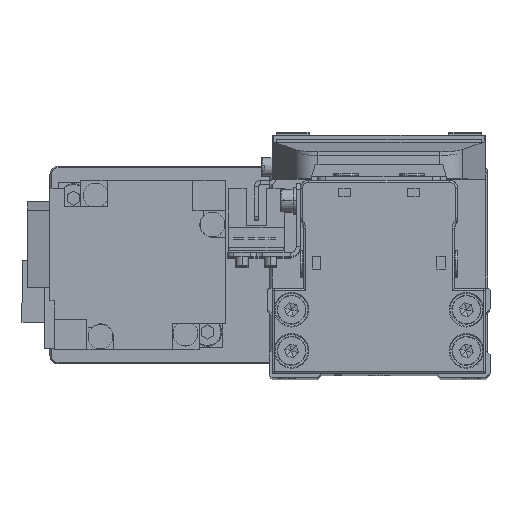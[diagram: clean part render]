
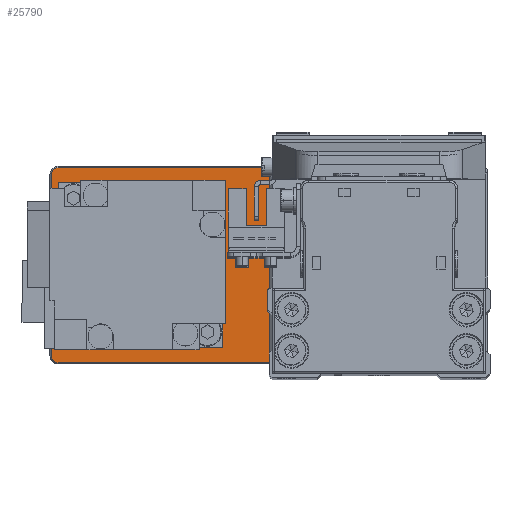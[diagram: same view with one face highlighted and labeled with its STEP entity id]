
A CAD part, top view. The second image highlights one B-rep face of the part: STEP entity #25790.
In plain terms, the highlighted planar face has unit normal (0, 0, 1).
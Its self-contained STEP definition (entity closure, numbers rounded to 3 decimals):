
#2 = CARTESIAN_POINT ( 'NONE',  ( -50., 23.7, 5. ) ) ;
#672 = VECTOR ( 'NONE', #6093, 1000. ) ;
#792 = VERTEX_POINT ( 'NONE', #32833 ) ;
#883 = AXIS2_PLACEMENT_3D ( 'NONE', #17381, #29630, #2081 ) ;
#1026 = AXIS2_PLACEMENT_3D ( 'NONE', #12439, #24698, #36953 ) ;
#2081 = DIRECTION ( 'NONE',  ( 1., 0., 0. ) ) ;
#2682 = DIRECTION ( 'NONE',  ( 0., 0., 1. ) ) ;
#2801 = DIRECTION ( 'NONE',  ( 1., 0., 0. ) ) ;
#3756 = EDGE_CURVE ( 'NONE', #5371, #11821, #10907, .T. ) ;
#3780 = CARTESIAN_POINT ( 'NONE',  ( 51.7, -22., 5. ) ) ;
#4079 = DIRECTION ( 'NONE',  ( 0., 0., 1. ) ) ;
#4479 = DIRECTION ( 'NONE',  ( 1., 0., 0. ) ) ;
#4507 = CIRCLE ( 'NONE', #26968, 12.8 ) ;
#4812 = EDGE_CURVE ( 'NONE', #12138, #792, #38847, .T. ) ;
#5371 = VERTEX_POINT ( 'NONE', #35365 ) ;
#5644 = EDGE_CURVE ( 'NONE', #31655, #14445, #18390, .T. ) ;
#5719 = FACE_OUTER_BOUND ( 'NONE', #32678, .T. ) ;
#5941 = AXIS2_PLACEMENT_3D ( 'NONE', #6757, #19032, #31288 ) ;
#6093 = DIRECTION ( 'NONE',  ( 0., -1., 0. ) ) ;
#6323 = VERTEX_POINT ( 'NONE', #27300 ) ;
#6523 = VERTEX_POINT ( 'NONE', #38117 ) ;
#6757 = CARTESIAN_POINT ( 'NONE',  ( 30., 0., 5. ) ) ;
#7236 = EDGE_CURVE ( 'NONE', #6523, #6323, #21380, .T. ) ;
#8892 = ORIENTED_EDGE ( 'NONE', *, *, #5644, .T. ) ;
#9522 = DIRECTION ( 'NONE',  ( 0., 0., -1. ) ) ;
#9600 = DIRECTION ( 'NONE',  ( 1., 0., 0. ) ) ;
#9760 = CARTESIAN_POINT ( 'NONE',  ( 51.7, 22., 5. ) ) ;
#9847 = ORIENTED_EDGE ( 'NONE', *, *, #4812, .T. ) ;
#10322 = EDGE_CURVE ( 'NONE', #34520, #31655, #37288, .T. ) ;
#10907 = LINE ( 'NONE', #23159, #23497 ) ;
#10922 = VECTOR ( 'NONE', #22034, 1000. ) ;
#11082 = ORIENTED_EDGE ( 'NONE', *, *, #10322, .T. ) ;
#11204 = CIRCLE ( 'NONE', #33653, 1.7 ) ;
#11445 = AXIS2_PLACEMENT_3D ( 'NONE', #24885, #37140, #9600 ) ;
#11821 = VERTEX_POINT ( 'NONE', #33253 ) ;
#11921 = VERTEX_POINT ( 'NONE', #36852 ) ;
#12138 = VERTEX_POINT ( 'NONE', #19969 ) ;
#12304 = DIRECTION ( 'NONE',  ( -1., 0., 0. ) ) ;
#12439 = CARTESIAN_POINT ( 'NONE',  ( 50., 22., 5. ) ) ;
#13454 = EDGE_CURVE ( 'NONE', #14445, #36296, #27569, .T. ) ;
#13544 = ORIENTED_EDGE ( 'NONE', *, *, #37649, .T. ) ;
#14040 = EDGE_CURVE ( 'NONE', #11821, #34520, #11204, .T. ) ;
#14445 = VERTEX_POINT ( 'NONE', #29095 ) ;
#14971 = DIRECTION ( 'NONE',  ( 1., 0., 0. ) ) ;
#15343 = ORIENTED_EDGE ( 'NONE', *, *, #17087, .T. ) ;
#16369 = DIRECTION ( 'NONE',  ( 1., 0., 0. ) ) ;
#17087 = EDGE_CURVE ( 'NONE', #36296, #6523, #38247, .T. ) ;
#17381 = CARTESIAN_POINT ( 'NONE',  ( -50., -22., 5. ) ) ;
#17984 = PLANE ( 'NONE',  #33597 ) ;
#18101 = CARTESIAN_POINT ( 'NONE',  ( -50., 22., 5. ) ) ;
#18150 = CIRCLE ( 'NONE', #5941, 12.8 ) ;
#18240 = CIRCLE ( 'NONE', #883, 1.7 ) ;
#18390 = CIRCLE ( 'NONE', #1026, 1.7 ) ;
#19032 = DIRECTION ( 'NONE',  ( 0., 0., -1. ) ) ;
#19073 = ORIENTED_EDGE ( 'NONE', *, *, #24844, .T. ) ;
#19786 = CARTESIAN_POINT ( 'NONE',  ( 30., 0., 5. ) ) ;
#19969 = CARTESIAN_POINT ( 'NONE',  ( -38.3, 0., 5. ) ) ;
#20947 = AXIS2_PLACEMENT_3D ( 'NONE', #18101, #30339, #2801 ) ;
#21022 = FACE_BOUND ( 'NONE', #35081, .T. ) ;
#21380 = LINE ( 'NONE', #33617, #672 ) ;
#21546 = AXIS2_PLACEMENT_3D ( 'NONE', #37055, #9522, #21786 ) ;
#21576 = ORIENTED_EDGE ( 'NONE', *, *, #13454, .T. ) ;
#21786 = DIRECTION ( 'NONE',  ( 1., 0., 0. ) ) ;
#22008 = CARTESIAN_POINT ( 'NONE',  ( 17.2, 0., 5. ) ) ;
#22034 = DIRECTION ( 'NONE',  ( 0., 1., 0. ) ) ;
#22673 = CARTESIAN_POINT ( 'NONE',  ( 51.7, 22., 5. ) ) ;
#23159 = CARTESIAN_POINT ( 'NONE',  ( 50., -23.7, 5. ) ) ;
#23497 = VECTOR ( 'NONE', #35409, 1000. ) ;
#24383 = ORIENTED_EDGE ( 'NONE', *, *, #33813, .T. ) ;
#24698 = DIRECTION ( 'NONE',  ( 0., 0., 1. ) ) ;
#24844 = EDGE_CURVE ( 'NONE', #11921, #28778, #18150, .T. ) ;
#24885 = CARTESIAN_POINT ( 'NONE',  ( -28., 0., 5. ) ) ;
#25790 = ADVANCED_FACE ( 'NONE', ( #21022, #33254, #5719 ), #17984, .T. ) ;
#25843 = CARTESIAN_POINT ( 'NONE',  ( -50., 23.7, 5. ) ) ;
#26968 = AXIS2_PLACEMENT_3D ( 'NONE', #19786, #32024, #4479 ) ;
#27300 = CARTESIAN_POINT ( 'NONE',  ( -51.7, -22., 5. ) ) ;
#27569 = LINE ( 'NONE', #2, #32338 ) ;
#28635 = ORIENTED_EDGE ( 'NONE', *, *, #3756, .T. ) ;
#28764 = CIRCLE ( 'NONE', #11445, 10.3 ) ;
#28778 = VERTEX_POINT ( 'NONE', #22008 ) ;
#29095 = CARTESIAN_POINT ( 'NONE',  ( 50., 23.7, 5. ) ) ;
#29630 = DIRECTION ( 'NONE',  ( 0., 0., 1. ) ) ;
#29653 = EDGE_LOOP ( 'NONE', ( #33873, #9847 ) ) ;
#30224 = CARTESIAN_POINT ( 'NONE',  ( 0., 0., 5. ) ) ;
#30339 = DIRECTION ( 'NONE',  ( 0., 0., 1. ) ) ;
#30680 = ORIENTED_EDGE ( 'NONE', *, *, #7236, .T. ) ;
#31288 = DIRECTION ( 'NONE',  ( 1., 0., 0. ) ) ;
#31521 = EDGE_CURVE ( 'NONE', #792, #12138, #28764, .T. ) ;
#31626 = CARTESIAN_POINT ( 'NONE',  ( 50., -22., 5. ) ) ;
#31655 = VERTEX_POINT ( 'NONE', #22673 ) ;
#32024 = DIRECTION ( 'NONE',  ( 0., 0., -1. ) ) ;
#32077 = ORIENTED_EDGE ( 'NONE', *, *, #14040, .T. ) ;
#32338 = VECTOR ( 'NONE', #12304, 1000. ) ;
#32678 = EDGE_LOOP ( 'NONE', ( #28635, #32077, #11082, #8892, #21576, #15343, #30680, #13544 ) ) ;
#32833 = CARTESIAN_POINT ( 'NONE',  ( -17.7, 0., 5. ) ) ;
#33253 = CARTESIAN_POINT ( 'NONE',  ( 50., -23.7, 5. ) ) ;
#33254 = FACE_BOUND ( 'NONE', #29653, .T. ) ;
#33597 = AXIS2_PLACEMENT_3D ( 'NONE', #30224, #2682, #14971 ) ;
#33617 = CARTESIAN_POINT ( 'NONE',  ( -51.7, -22., 5. ) ) ;
#33653 = AXIS2_PLACEMENT_3D ( 'NONE', #31626, #4079, #16369 ) ;
#33813 = EDGE_CURVE ( 'NONE', #28778, #11921, #4507, .T. ) ;
#33873 = ORIENTED_EDGE ( 'NONE', *, *, #31521, .T. ) ;
#34520 = VERTEX_POINT ( 'NONE', #3780 ) ;
#35081 = EDGE_LOOP ( 'NONE', ( #19073, #24383 ) ) ;
#35365 = CARTESIAN_POINT ( 'NONE',  ( -50., -23.7, 5. ) ) ;
#35409 = DIRECTION ( 'NONE',  ( 1., 0., 0. ) ) ;
#36296 = VERTEX_POINT ( 'NONE', #25843 ) ;
#36852 = CARTESIAN_POINT ( 'NONE',  ( 42.8, 0., 5. ) ) ;
#36953 = DIRECTION ( 'NONE',  ( 1., 0., 0. ) ) ;
#37055 = CARTESIAN_POINT ( 'NONE',  ( -28., 0., 5. ) ) ;
#37140 = DIRECTION ( 'NONE',  ( 0., 0., -1. ) ) ;
#37288 = LINE ( 'NONE', #9760, #10922 ) ;
#37649 = EDGE_CURVE ( 'NONE', #6323, #5371, #18240, .T. ) ;
#38117 = CARTESIAN_POINT ( 'NONE',  ( -51.7, 22., 5. ) ) ;
#38247 = CIRCLE ( 'NONE', #20947, 1.7 ) ;
#38847 = CIRCLE ( 'NONE', #21546, 10.3 ) ;
